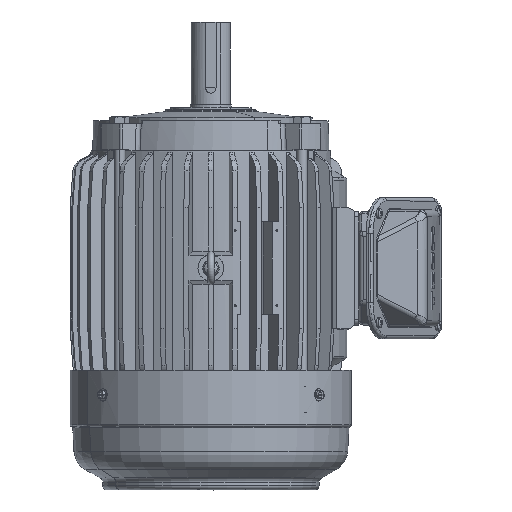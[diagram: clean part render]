
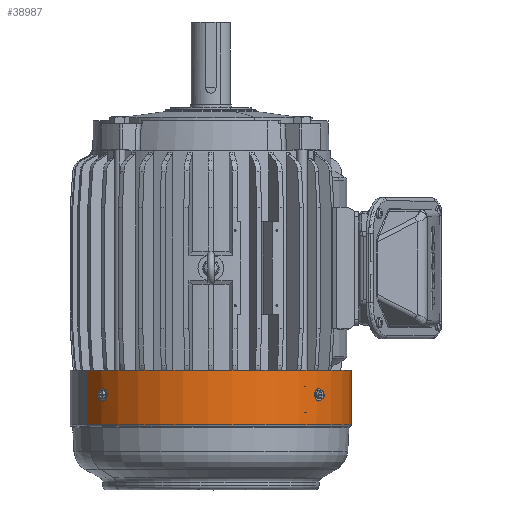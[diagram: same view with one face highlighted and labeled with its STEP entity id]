
A CAD part, top view. The second image highlights one B-rep face of the part: STEP entity #38987.
In plain terms, the highlighted cylindrical face has radius 136.45 mm (diameter 272.9 mm), a partial arc.
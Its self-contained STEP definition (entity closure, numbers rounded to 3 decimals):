
#38798=CARTESIAN_POINT('Vertex',(-103.556,-120.,88.852)) ;
#38801=CARTESIAN_POINT('Axis2P3D Location',(0.,-120.,0.)) ;
#38805=CARTESIAN_POINT('Vertex',(-104.527,-120.,87.708)) ;
#38808=CARTESIAN_POINT('Axis2P3D Location',(0.,-120.,0.)) ;
#38812=CARTESIAN_POINT('Vertex',(-105.485,-120.,86.554)) ;
#38828=CARTESIAN_POINT('Axis2P3D Location',(0.,-157.,0.)) ;
#38833=CARTESIAN_POINT('Line Origine',(119.746,-125.435,-65.418)) ;
#38837=CARTESIAN_POINT('Vertex',(119.746,-151.87,-65.418)) ;
#38839=CARTESIAN_POINT('Vertex',(119.746,-99.,-65.418)) ;
#38842=CARTESIAN_POINT('Axis2P3D Location',(0.,-99.,0.)) ;
#38846=CARTESIAN_POINT('Vertex',(-119.746,-99.,65.418)) ;
#38849=CARTESIAN_POINT('Line Origine',(-119.746,-125.435,65.418)) ;
#38853=CARTESIAN_POINT('Vertex',(-119.746,-151.87,65.418)) ;
#38856=CARTESIAN_POINT('Axis2P3D Location',(0.,-151.87,0.)) ;
#38867=CARTESIAN_POINT('Axis2P3D Location',(0.,-126.,0.)) ;
#38871=CARTESIAN_POINT('Vertex',(-105.485,-126.,86.554)) ;
#38873=CARTESIAN_POINT('Vertex',(-104.527,-126.,87.708)) ;
#38877=CARTESIAN_POINT('Control Point',(-105.485,-126.,86.554)) ;
#38878=CARTESIAN_POINT('Control Point',(-105.919,-126.,86.025)) ;
#38879=CARTESIAN_POINT('Control Point',(-106.35,-125.805,85.493)) ;
#38880=CARTESIAN_POINT('Control Point',(-106.73,-125.414,85.016)) ;
#38881=CARTESIAN_POINT('Control Point',(-107.16,-124.602,84.471)) ;
#38882=CARTESIAN_POINT('Control Point',(-107.343,-123.608,84.239)) ;
#38883=CARTESIAN_POINT('Control Point',(-107.374,-123.265,84.199)) ;
#38884=CARTESIAN_POINT('Control Point',(-107.374,-122.052,84.198)) ;
#38885=CARTESIAN_POINT('Control Point',(-107.008,-120.923,84.665)) ;
#38886=CARTESIAN_POINT('Control Point',(-106.568,-120.307,85.223)) ;
#38887=CARTESIAN_POINT('Control Point',(-106.029,-120.,85.891)) ;
#38888=CARTESIAN_POINT('Control Point',(-105.485,-120.,86.554)) ;
#38891=CARTESIAN_POINT('Control Point',(-103.556,-120.,88.852)) ;
#38892=CARTESIAN_POINT('Control Point',(-103.111,-120.,89.372)) ;
#38893=CARTESIAN_POINT('Control Point',(-102.661,-120.195,89.888)) ;
#38894=CARTESIAN_POINT('Control Point',(-102.258,-120.586,90.346)) ;
#38895=CARTESIAN_POINT('Control Point',(-101.796,-121.398,90.864)) ;
#38896=CARTESIAN_POINT('Control Point',(-101.599,-122.392,91.084)) ;
#38897=CARTESIAN_POINT('Control Point',(-101.565,-122.735,91.121)) ;
#38898=CARTESIAN_POINT('Control Point',(-101.564,-123.948,91.122)) ;
#38899=CARTESIAN_POINT('Control Point',(-101.961,-125.077,90.68)) ;
#38900=CARTESIAN_POINT('Control Point',(-102.433,-125.693,90.15)) ;
#38901=CARTESIAN_POINT('Control Point',(-102.997,-126.,89.503)) ;
#38902=CARTESIAN_POINT('Control Point',(-103.556,-126.,88.852)) ;
#38903=CARTESIAN_POINT('Vertex',(-103.556,-126.,88.852)) ;
#38906=CARTESIAN_POINT('Axis2P3D Location',(0.,-126.,0.)) ;
#38919=CARTESIAN_POINT('Axis2P3D Location',(0.,-120.,0.)) ;
#38923=CARTESIAN_POINT('Vertex',(105.485,-120.,86.554)) ;
#38925=CARTESIAN_POINT('Vertex',(104.527,-120.,87.708)) ;
#38929=CARTESIAN_POINT('Control Point',(105.485,-120.,86.554)) ;
#38930=CARTESIAN_POINT('Control Point',(105.919,-120.,86.025)) ;
#38931=CARTESIAN_POINT('Control Point',(106.35,-120.195,85.493)) ;
#38932=CARTESIAN_POINT('Control Point',(106.73,-120.586,85.016)) ;
#38933=CARTESIAN_POINT('Control Point',(107.16,-121.398,84.471)) ;
#38934=CARTESIAN_POINT('Control Point',(107.343,-122.392,84.239)) ;
#38935=CARTESIAN_POINT('Control Point',(107.374,-122.735,84.199)) ;
#38936=CARTESIAN_POINT('Control Point',(107.374,-123.948,84.198)) ;
#38937=CARTESIAN_POINT('Control Point',(107.008,-125.077,84.665)) ;
#38938=CARTESIAN_POINT('Control Point',(106.568,-125.693,85.223)) ;
#38939=CARTESIAN_POINT('Control Point',(106.029,-126.,85.891)) ;
#38940=CARTESIAN_POINT('Control Point',(105.485,-126.,86.554)) ;
#38941=CARTESIAN_POINT('Vertex',(105.485,-126.,86.554)) ;
#38944=CARTESIAN_POINT('Axis2P3D Location',(0.,-126.,0.)) ;
#38948=CARTESIAN_POINT('Vertex',(104.527,-126.,87.708)) ;
#38951=CARTESIAN_POINT('Axis2P3D Location',(0.,-126.,0.)) ;
#38955=CARTESIAN_POINT('Vertex',(103.556,-126.,88.852)) ;
#38959=CARTESIAN_POINT('Control Point',(103.556,-126.,88.852)) ;
#38960=CARTESIAN_POINT('Control Point',(103.111,-126.,89.372)) ;
#38961=CARTESIAN_POINT('Control Point',(102.661,-125.805,89.888)) ;
#38962=CARTESIAN_POINT('Control Point',(102.258,-125.414,90.346)) ;
#38963=CARTESIAN_POINT('Control Point',(101.796,-124.602,90.864)) ;
#38964=CARTESIAN_POINT('Control Point',(101.599,-123.608,91.084)) ;
#38965=CARTESIAN_POINT('Control Point',(101.565,-123.265,91.121)) ;
#38966=CARTESIAN_POINT('Control Point',(101.564,-122.052,91.122)) ;
#38967=CARTESIAN_POINT('Control Point',(101.961,-120.923,90.68)) ;
#38968=CARTESIAN_POINT('Control Point',(102.433,-120.307,90.15)) ;
#38969=CARTESIAN_POINT('Control Point',(102.997,-120.,89.503)) ;
#38970=CARTESIAN_POINT('Control Point',(103.556,-120.,88.852)) ;
#38971=CARTESIAN_POINT('Vertex',(103.556,-120.,88.852)) ;
#38974=CARTESIAN_POINT('Axis2P3D Location',(0.,-120.,0.)) ;
#38802=DIRECTION('Axis2P3D Direction',(-0.,-1.,0.)) ;
#38809=DIRECTION('Axis2P3D Direction',(-0.,-1.,0.)) ;
#38829=DIRECTION('Axis2P3D Direction',(0.,1.,-0.)) ;
#38830=DIRECTION('Axis2P3D XDirection',(-0.402,0.,-0.916)) ;
#38834=DIRECTION('Vector Direction',(0.,1.,0.)) ;
#38843=DIRECTION('Axis2P3D Direction',(0.,1.,-0.)) ;
#38850=DIRECTION('Vector Direction',(0.,1.,0.)) ;
#38857=DIRECTION('Axis2P3D Direction',(0.,1.,-0.)) ;
#38868=DIRECTION('Axis2P3D Direction',(0.,1.,-0.)) ;
#38907=DIRECTION('Axis2P3D Direction',(0.,1.,-0.)) ;
#38920=DIRECTION('Axis2P3D Direction',(0.,1.,-0.)) ;
#38945=DIRECTION('Axis2P3D Direction',(0.,1.,-0.)) ;
#38952=DIRECTION('Axis2P3D Direction',(0.,1.,-0.)) ;
#38975=DIRECTION('Axis2P3D Direction',(0.,1.,-0.)) ;
#38803=AXIS2_PLACEMENT_3D('Circle Axis2P3D',#38801,#38802,$) ;
#38810=AXIS2_PLACEMENT_3D('Circle Axis2P3D',#38808,#38809,$) ;
#38831=AXIS2_PLACEMENT_3D('Cylinder Axis2P3D',#38828,#38829,#38830) ;
#38844=AXIS2_PLACEMENT_3D('Circle Axis2P3D',#38842,#38843,$) ;
#38858=AXIS2_PLACEMENT_3D('Circle Axis2P3D',#38856,#38857,$) ;
#38869=AXIS2_PLACEMENT_3D('Circle Axis2P3D',#38867,#38868,$) ;
#38908=AXIS2_PLACEMENT_3D('Circle Axis2P3D',#38906,#38907,$) ;
#38921=AXIS2_PLACEMENT_3D('Circle Axis2P3D',#38919,#38920,$) ;
#38946=AXIS2_PLACEMENT_3D('Circle Axis2P3D',#38944,#38945,$) ;
#38953=AXIS2_PLACEMENT_3D('Circle Axis2P3D',#38951,#38952,$) ;
#38976=AXIS2_PLACEMENT_3D('Circle Axis2P3D',#38974,#38975,$) ;
#38862=ORIENTED_EDGE('',*,*,#38841,.T.) ;
#38863=ORIENTED_EDGE('',*,*,#38848,.F.) ;
#38864=ORIENTED_EDGE('',*,*,#38855,.F.) ;
#38865=ORIENTED_EDGE('',*,*,#38860,.T.) ;
#38912=ORIENTED_EDGE('',*,*,#38875,.F.) ;
#38913=ORIENTED_EDGE('',*,*,#38889,.T.) ;
#38914=ORIENTED_EDGE('',*,*,#38814,.F.) ;
#38915=ORIENTED_EDGE('',*,*,#38807,.F.) ;
#38916=ORIENTED_EDGE('',*,*,#38905,.T.) ;
#38917=ORIENTED_EDGE('',*,*,#38910,.F.) ;
#38980=ORIENTED_EDGE('',*,*,#38927,.F.) ;
#38981=ORIENTED_EDGE('',*,*,#38943,.T.) ;
#38982=ORIENTED_EDGE('',*,*,#38950,.F.) ;
#38983=ORIENTED_EDGE('',*,*,#38957,.F.) ;
#38984=ORIENTED_EDGE('',*,*,#38973,.T.) ;
#38985=ORIENTED_EDGE('',*,*,#38978,.F.) ;
#38918=FACE_BOUND('',#38911,.T.) ;
#38986=FACE_BOUND('',#38979,.T.) ;
#38835=VECTOR('Line Direction',#38834,1.) ;
#38851=VECTOR('Line Direction',#38850,1.) ;
#38987=ADVANCED_FACE('\X2\51434EF6672C9AD4\X0\',(#38866,#38918,#38986),#38832,.T.) ;
#38876=B_SPLINE_CURVE_WITH_KNOTS('',5,(#38877,#38878,#38879,#38880,#38881,#38882,#38883,#38884,#38885,#38886,#38887,#38888),.UNSPECIFIED.,.F.,.U.,(6,3,3,6),(0.,4.841,7.261,13.33),.UNSPECIFIED.) ;
#38890=B_SPLINE_CURVE_WITH_KNOTS('',5,(#38891,#38892,#38893,#38894,#38895,#38896,#38897,#38898,#38899,#38900,#38901,#38902),.UNSPECIFIED.,.F.,.U.,(6,3,3,6),(0.,4.841,7.261,13.33),.UNSPECIFIED.) ;
#38928=B_SPLINE_CURVE_WITH_KNOTS('',5,(#38929,#38930,#38931,#38932,#38933,#38934,#38935,#38936,#38937,#38938,#38939,#38940),.UNSPECIFIED.,.F.,.U.,(6,3,3,6),(0.,4.841,7.261,13.33),.UNSPECIFIED.) ;
#38958=B_SPLINE_CURVE_WITH_KNOTS('',5,(#38959,#38960,#38961,#38962,#38963,#38964,#38965,#38966,#38967,#38968,#38969,#38970),.UNSPECIFIED.,.F.,.U.,(6,3,3,6),(0.,4.841,7.261,13.33),.UNSPECIFIED.) ;
#38804=CIRCLE('generated circle',#38803,136.45) ;
#38811=CIRCLE('generated circle',#38810,136.45) ;
#38845=CIRCLE('generated circle',#38844,136.45) ;
#38859=CIRCLE('generated circle',#38858,136.45) ;
#38870=CIRCLE('generated circle',#38869,136.45) ;
#38909=CIRCLE('generated circle',#38908,136.45) ;
#38922=CIRCLE('generated circle',#38921,136.45) ;
#38947=CIRCLE('generated circle',#38946,136.45) ;
#38954=CIRCLE('generated circle',#38953,136.45) ;
#38977=CIRCLE('generated circle',#38976,136.45) ;
#38832=CYLINDRICAL_SURFACE('generated cylinder',#38831,136.45) ;
#38807=EDGE_CURVE('',#38799,#38806,#38804,.T.) ;
#38814=EDGE_CURVE('',#38806,#38813,#38811,.T.) ;
#38841=EDGE_CURVE('',#38838,#38840,#38836,.T.) ;
#38848=EDGE_CURVE('',#38847,#38840,#38845,.T.) ;
#38855=EDGE_CURVE('',#38854,#38847,#38852,.T.) ;
#38860=EDGE_CURVE('',#38854,#38838,#38859,.T.) ;
#38875=EDGE_CURVE('',#38872,#38874,#38870,.T.) ;
#38889=EDGE_CURVE('',#38872,#38813,#38876,.T.) ;
#38905=EDGE_CURVE('',#38799,#38904,#38890,.T.) ;
#38910=EDGE_CURVE('',#38874,#38904,#38909,.T.) ;
#38927=EDGE_CURVE('',#38924,#38926,#38922,.F.) ;
#38943=EDGE_CURVE('',#38924,#38942,#38928,.T.) ;
#38950=EDGE_CURVE('',#38949,#38942,#38947,.T.) ;
#38957=EDGE_CURVE('',#38956,#38949,#38954,.T.) ;
#38973=EDGE_CURVE('',#38956,#38972,#38958,.T.) ;
#38978=EDGE_CURVE('',#38926,#38972,#38977,.F.) ;
#38861=EDGE_LOOP('',(#38862,#38863,#38864,#38865)) ;
#38911=EDGE_LOOP('',(#38912,#38913,#38914,#38915,#38916,#38917)) ;
#38979=EDGE_LOOP('',(#38980,#38981,#38982,#38983,#38984,#38985)) ;
#38866=FACE_OUTER_BOUND('',#38861,.T.) ;
#38836=LINE('Line',#38833,#38835) ;
#38852=LINE('Line',#38849,#38851) ;
#38799=VERTEX_POINT('',#38798) ;
#38806=VERTEX_POINT('',#38805) ;
#38813=VERTEX_POINT('',#38812) ;
#38838=VERTEX_POINT('',#38837) ;
#38840=VERTEX_POINT('',#38839) ;
#38847=VERTEX_POINT('',#38846) ;
#38854=VERTEX_POINT('',#38853) ;
#38872=VERTEX_POINT('',#38871) ;
#38874=VERTEX_POINT('',#38873) ;
#38904=VERTEX_POINT('',#38903) ;
#38924=VERTEX_POINT('',#38923) ;
#38926=VERTEX_POINT('',#38925) ;
#38942=VERTEX_POINT('',#38941) ;
#38949=VERTEX_POINT('',#38948) ;
#38956=VERTEX_POINT('',#38955) ;
#38972=VERTEX_POINT('',#38971) ;
